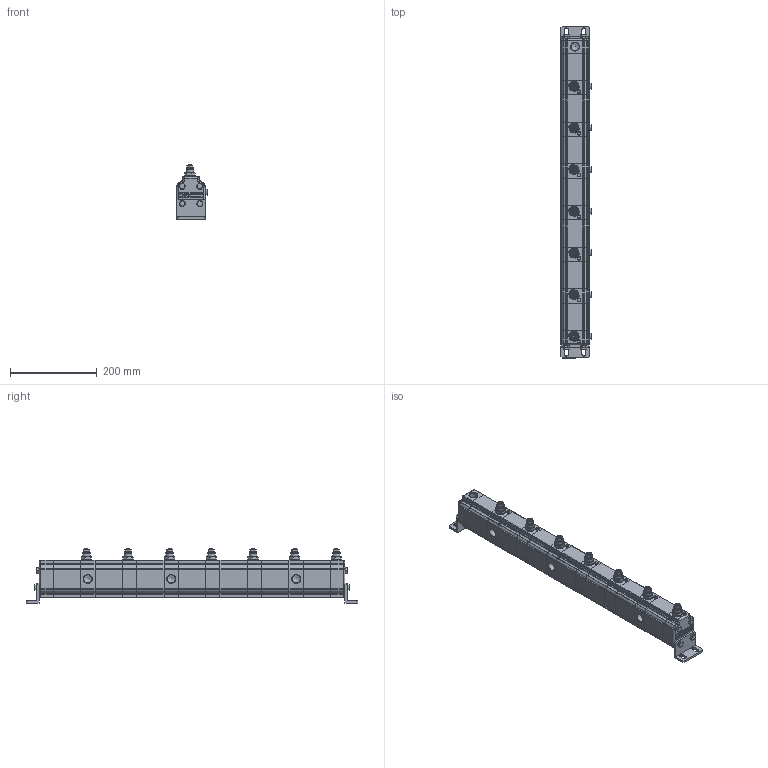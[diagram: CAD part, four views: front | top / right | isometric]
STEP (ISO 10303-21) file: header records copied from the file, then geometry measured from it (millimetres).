
FILE_DESCRIPTION(/* description */ ('Unknown'),/* implementation_level */ '2;1');
FILE_NAME(/* name */ '9RV07-32',/* time_stamp */ '2020-04-15T19:38:36+02:00',/* author */ ('Unknown'),/* organization */ ('Unknown'),/* preprocessor_version */ 'ST-DEVELOPER v16.7',/* originating_system */ 'DEX',/* authorisation */ $);
FILE_SCHEMA (('AUTOMOTIVE_DESIGN {1 0 10303 214 3 1 1}'));
Products named in the file (1): RV-1V
Bounding box: 70.5 x 765 x 124.5 mm (x, y, z)
Volume: 3483707 mm3; surface area: 245807.8 mm2
Topology: 1 solids, 1 shells, 1782 faces, 4733 edges, 3047 vertices
Faces by surface type: cylinder 747, plane 739, cone 200, bspline 64, torus 32
Full cylindrical faces by diameter (mm): 8 x7, 8.57 x7, 12 x8, 14 x7, 14.1 x7, 14.95 x14, 17 x7, 18 x7, 18.631 x8, 22 x7
Entity records: 77826 total; most frequent: CARTESIAN_POINT 21557, DIRECTION 9297, ORIENTED_EDGE 8994, EDGE_CURVE 4497, AXIS2_PLACEMENT_3D 3472, VERTEX_POINT 2991, LINE 2353, VECTOR 2353
